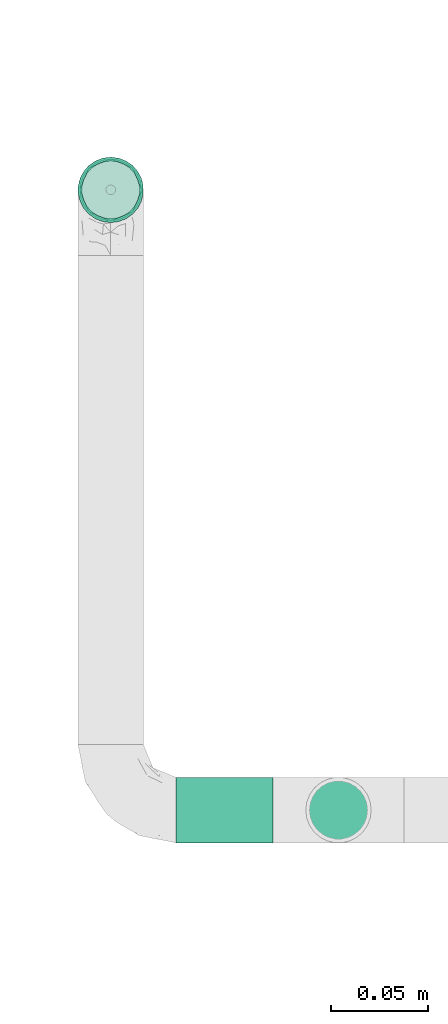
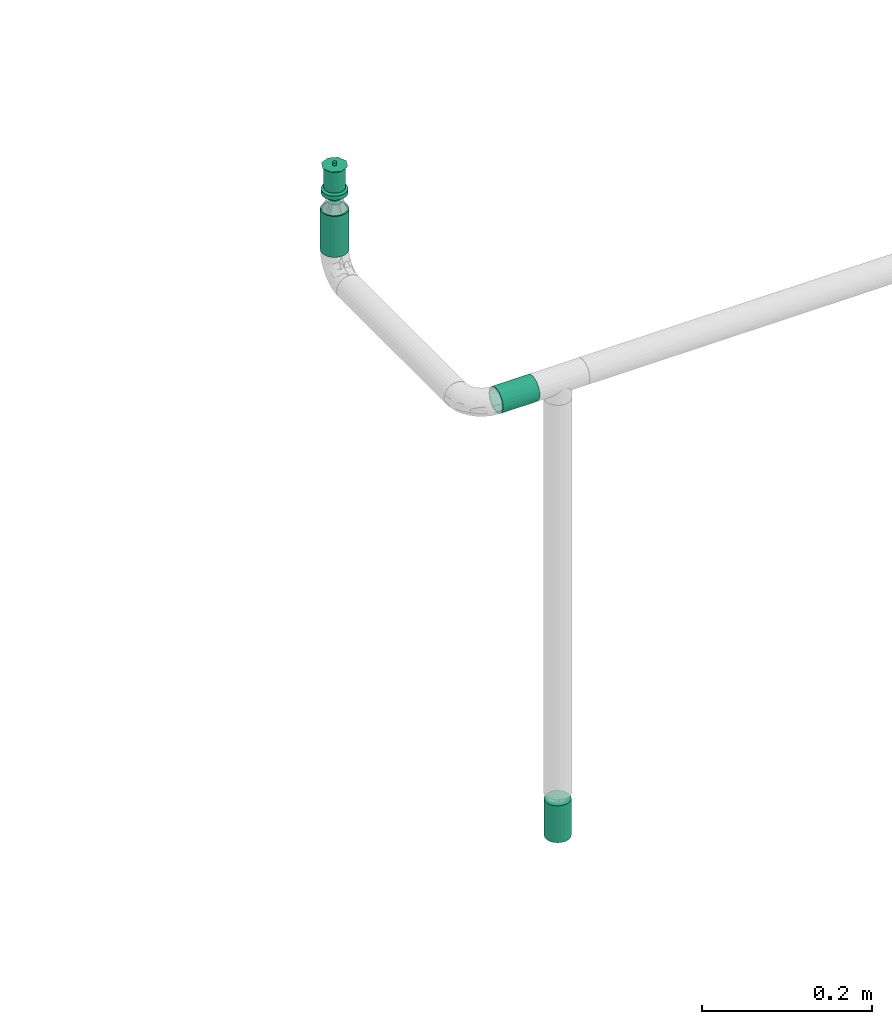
# One storey, part 79 of 94: 2 flow segments, 2 flow terminals.
"""IFC2X3 building model written with IfcOpenShell, lengths in millimetres."""

from ifc_helpers import new_model, entity, si_unit, converted_unit, derived_unit, direction, frame, origin_with_axes, origin_2d_with_axis, place, context, subcontext, project, spatial, hollow_circle, extrude, open_shell, surface_model, source, transform, mapped, type_object, element, save


model = new_model("IFC2X3")

# Units and contexts
model_context = context("Model", 3, precision=0.01, world=frame((0.0, 4.29681676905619e-09, 0.0)), true_north=direction((4.01073788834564e-13, 1.0)))
plan_context = context("Plan", 3, precision=0.01, world=frame((0.0, 4.29681676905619e-09, 0.0)), true_north=direction((4.01073788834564e-13, 1.0)))
body_context = subcontext(model_context, "Body", "Model", "MODEL_VIEW")
ifc_project = project(units=[converted_unit("PLANEANGLEUNIT", "DEGREE", entity("IfcPositiveLengthMeasure", 0.0174532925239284), si_unit("PLANEANGLEUNIT", "RADIAN"), dimensions=[0, 0, 0, 0, 0, 0, 0]), si_unit("AREAUNIT", "SQUARE_METRE"), si_unit("LENGTHUNIT", "METRE", prefix="MILLI"), si_unit("MASSUNIT", "GRAM", prefix="KILO"), si_unit("POWERUNIT", "WATT"), si_unit("PRESSUREUNIT", "PASCAL", prefix="KILO"), si_unit("FORCEUNIT", "NEWTON", prefix="KILO"), si_unit("ELECTRICVOLTAGEUNIT", "VOLT"), si_unit("ELECTRICCURRENTUNIT", "AMPERE"), si_unit("THERMODYNAMICTEMPERATUREUNIT", "DEGREE_CELSIUS"), si_unit("TIMEUNIT", "SECOND"), si_unit("VOLUMEUNIT", "CUBIC_METRE"), derived_unit("LINEARVELOCITYUNIT", [(si_unit("LENGTHUNIT", "METRE"), 1), (si_unit("TIMEUNIT", "SECOND"), -1)]), derived_unit("VOLUMETRICFLOWRATEUNIT", [(si_unit("VOLUMEUNIT", "CUBIC_METRE"), 1), (si_unit("TIMEUNIT", "SECOND"), -1)]), derived_unit("THERMALTRANSMITTANCEUNIT", [(si_unit("POWERUNIT", "WATT"), 1), (si_unit("THERMODYNAMICTEMPERATUREUNIT", "KELVIN"), -1), (si_unit("AREAUNIT", "SQUARE_METRE"), -1)]), derived_unit("SOUNDPRESSUREUNIT", [(si_unit("PRESSUREUNIT", "PASCAL"), 1)])], contexts=[model_context, plan_context])

# Site, building, storey
site_placement = place(None, frame((0.0, -4.29681676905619e-09, 0.0), z_axis=(0.0, 0.0, 1.0), x_axis=(1.0, 0.0, 0.0)))
site = spatial("IfcSite", under=ifc_project, at=site_placement, CompositionType="ELEMENT")
building_placement = place(site_placement, frame((0.0, 4.29681676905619e-09, 0.0), z_axis=(0.0, 0.0, 1.0), x_axis=(1.0, 0.0, 0.0)))
building = spatial("IfcBuilding", under=site, at=building_placement, Name="mc-building", CompositionType="ELEMENT")
storey_placement = place(building_placement, frame((0.0, 0.0, 210900.0), z_axis=(0.0, 0.0, 1.0), x_axis=(1.0, 0.0, 0.0)))
storey = spatial("IfcBuildingStorey", under=building, at=storey_placement, Name="Nivå F", CompositionType="ELEMENT", Elevation=210900.0)

# Flow segments
pipe_segment_type = type_object("IfcPipeSegmentType", Name="Stålrør normaltykke", PredefinedType="RIGIDSEGMENT")
shared_shape_1 = source(origin_with_axes(), body_context, "Body", "SweptSolid", [
    extrude(hollow_circle(Radius=16.9, WallThickness=2.0, at=origin_2d_with_axis()), frame((0.0, 0.0, 0.0), z_axis=(1.0, 0.0, 0.0), x_axis=(0.0, 1.0, 0.0)), (0.0, 0.0, 1.0), 50.0),
])
flow_segment_1_placement = place(storey_placement, frame((718865.9625, 444869.70099, 3650.0), z_axis=(0.0, 0.0, 1.0), x_axis=(-1.0, 0.0, 0.0)))
element("IfcFlowSegment", 1, at=flow_segment_1_placement, inside=storey, type_object=pipe_segment_type, Name="Stålrør normaltykke", context=body_context, shape_type="MappedRepresentation", body=[
    mapped(shared_shape_1, transform((0.0, 0.0, 0.0), scale=1.0)),
])
shared_shape_2 = source(origin_with_axes(), body_context, "Body", "SweptSolid", [
    extrude(hollow_circle(Radius=16.9, WallThickness=2.0, at=origin_2d_with_axis()), frame((0.0, 0.0, 0.0), z_axis=(1.0, 0.0, 0.0), x_axis=(0.0, 1.0, 0.0)), (0.0, 0.0, 1.0), 58.8),
])
flow_segment_2_placement = place(storey_placement, frame((718782.13546, 445190.0375, 3683.79999999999), z_axis=(1.0, 0.0, 0.0), x_axis=(0.0, 0.0, 1.0)))
element("IfcFlowSegment", 2, at=flow_segment_2_placement, inside=storey, type_object=pipe_segment_type, Name="Stålrør normaltykke", context=body_context, shape_type="MappedRepresentation", body=[
    mapped(shared_shape_2, transform((0.0, 0.0, 0.0), scale=1.0, scale2=1.0, scale3=1.0, uniform=False)),
])

# Flow terminals
fire_suppression_terminal_type_1 = type_object("IfcFireSuppressionTerminalType", Name="68DGR-STD-STÅENDE", PredefinedType="NOTDEFINED")
shared_shape_3 = source(origin_with_axes(), body_context, "Body", "SurfaceModel", [
    surface_model("IfcShellBasedSurfaceModel", [(3.36465, -12.55704, 51.0), (6.5, -11.25833, 51.0), (9.19239, -9.19239, 51.0), (12.55704, -3.36465, 51.0), (-11.25833, -6.5, 51.0), (11.25833, -6.5, 51.0), (-13.0, 0.0, 51.0), (0.0, -13.0, 51.0), (-6.5, -11.25833, 51.0), (-3.36465, -12.55704, 51.0), (-9.19239, -9.19239, 51.0), (-12.55704, -3.36465, 51.0), (13.0, 0.0, 51.0), (12.55704, 3.36465, 51.0), (11.25833, 6.5, 51.0), (9.19239, 9.19239, 51.0), (6.5, 11.25833, 51.0), (3.36465, 12.55704, 51.0), (0.0, 13.0, 51.0), (-3.36465, 12.55704, 51.0), (-12.55704, 3.36465, 51.0), (-9.19239, 9.19239, 51.0), (-11.25833, 6.5, 51.0), (-6.5, 11.25833, 51.0), (0.0, 13.0, 21.14766), (3.36465, 12.55704, 21.14766), (6.5, 11.25833, 21.14766), (-3.36465, 12.55704, 21.14766), (9.19239, 9.19239, 21.14766), (11.25833, 6.5, 21.14766), (12.55704, 3.36465, 21.14766), (-12.55704, 3.36465, 21.14766), (-11.25833, -6.5, 21.14766), (-9.19239, 9.19239, 21.14766), (-6.5, 11.25833, 21.14766), (-11.25833, 6.5, 21.14766), (-13.0, 0.0, 21.14766), (12.55704, -3.36465, 21.14766), (9.19239, -9.19239, 21.14766), (11.25833, -6.5, 21.14766), (6.5, -11.25833, 21.14766), (3.36465, -12.55704, 21.14766), (-6.5, -11.25833, 21.14766), (-9.19239, -9.19239, 21.14766), (-12.55704, -3.36465, 21.14766), (0.0, -13.0, 21.14766), (-3.36465, -12.55704, 21.14766), (13.0, 0.0, 21.14766), (7.24444, -1.94114, 0.1), (1.94114, -7.24444, 0.1), (3.75, -6.49519, 0.1), (5.3033, -5.3033, 0.1), (-5.3033, -5.3033, 0.1), (6.49519, -3.75, 0.1), (5.3033, 5.3033, 0.1), (0.0, -7.5, 0.1), (-3.75, -6.49519, 0.1), (-1.94114, -7.24444, 0.1), (-7.24444, -1.94114, 0.1), (-6.49519, -3.75, 0.1), (-7.24444, 1.94114, 0.1), (7.5, 0.0, 0.1), (6.49519, 3.75, 0.1), (-6.49519, 3.75, 0.1), (1.94114, 7.24444, 0.1), (0.0, 7.5, 0.1), (3.75, 6.49519, 0.1), (-7.5, 0.0, 0.1), (-5.3033, 5.3033, 0.1), (-1.94114, 7.24444, 0.1), (-3.75, 6.49519, 0.1), (7.24444, 1.94114, 0.1), (1.94114, 7.24444, -0.1), (-6.49519, 3.75, -0.1), (0.0, 7.5, -0.1), (5.3033, 5.3033, -0.1), (3.75, 6.49519, -0.1), (6.49519, 3.75, -0.1), (7.24444, 1.94114, -0.1), (-1.94114, 7.24444, -0.1), (-5.3033, 5.3033, -0.1), (-3.75, 6.49519, -0.1), (-7.24444, 1.94114, -0.1), (-7.24444, -1.94114, -0.1), (-7.5, 0.0, -0.1), (7.5, 0.0, -0.1), (7.24444, -1.94114, -0.1), (-5.3033, -5.3033, -0.1), (1.94114, -7.24444, -0.1), (6.49519, -3.75, -0.1), (5.3033, -5.3033, -0.1), (3.75, -6.49519, -0.1), (-6.49519, -3.75, -0.1), (-3.75, -6.49519, -0.1), (0.0, -7.5, -0.1), (-1.94114, -7.24444, -0.1), (0.0, -2.5, 51.0), (-2.5, 0.0, 51.0), (0.0, 2.5, 51.0), (2.5, 0.0, 51.0), (0.0, -16.0, 53.0), (11.31371, -11.31371, 53.0), (-11.31371, -11.31371, 53.0), (-16.0, 0.0, 53.0), (16.0, 0.0, 53.0), (11.31371, 11.31371, 53.0), (0.0, 16.0, 53.0), (-11.31371, 11.31371, 53.0), (1.25, -2.16506, 57.0), (0.0, -2.5, 57.0), (0.64705, -2.41481, 57.0), (2.41481, -0.64705, 57.0), (1.76777, -1.76777, 57.0), (-2.41481, -0.64705, 57.0), (-2.5, 0.0, 57.0), (2.16506, -1.25, 57.0), (-1.25, -2.16506, 57.0), (-0.64705, -2.41481, 57.0), (-1.76777, -1.76777, 57.0), (-2.16506, -1.25, 57.0), (2.5, 0.0, 57.0), (2.41481, 0.64705, 57.0), (2.16506, 1.25, 57.0), (1.76777, 1.76777, 57.0), (0.64705, 2.41481, 57.0), (1.25, 2.16506, 57.0), (-1.76777, 1.76777, 57.0), (0.0, 2.5, 57.0), (-2.16506, 1.25, 57.0), (-2.41481, 0.64705, 57.0), (-0.64705, 2.41481, 57.0), (-1.25, 2.16506, 57.0), (1.25, 2.16506, 51.0), (1.76777, 1.76777, 51.0), (1.15, 1.99186, 51.0), (0.59528, 2.22163, 51.0), (0.64705, 2.41481, 51.0), (0.0, 2.3, 51.0), (1.62635, 1.62635, 51.0), (2.41481, 0.64705, 51.0), (2.3, 0.0, 51.0), (2.22163, 0.59528, 51.0), (2.16506, 1.25, 51.0), (1.99186, 1.15, 51.0), (-0.59528, 2.22163, 51.0), (-0.64705, 2.41481, 51.0), (-1.15, 1.99186, 51.0), (-1.76777, 1.76777, 51.0), (-1.25, 2.16506, 51.0), (-1.62635, 1.62635, 51.0), (-1.99186, 1.15, 51.0), (-2.16506, 1.25, 51.0), (-2.22163, 0.59528, 51.0), (-2.41481, 0.64705, 51.0), (-2.3, 0.0, 51.0), (2.41481, -0.64705, 51.0), (2.22163, -0.59528, 51.0), (1.99186, -1.15, 51.0), (2.16506, -1.25, 51.0), (1.62635, -1.62635, 51.0), (1.76777, -1.76777, 51.0), (1.25, -2.16506, 51.0), (1.15, -1.99186, 51.0), (0.59528, -2.22163, 51.0), (0.64705, -2.41481, 51.0), (0.0, -2.3, 51.0), (-2.16506, -1.25, 51.0), (-1.99186, -1.15, 51.0), (-1.76777, -1.76777, 51.0), (-1.62635, -1.62635, 51.0), (-2.41481, -0.64705, 51.0), (-2.22163, -0.59528, 51.0), (-0.59528, -2.22163, 51.0), (-0.64705, -2.41481, 51.0), (-1.15, -1.99186, 51.0), (-1.25, -2.16506, 51.0), (1.62635, -1.62635, 56.8), (1.15, -1.99186, 56.8), (0.59528, -2.22163, 56.8), (0.0, -2.3, 56.8), (2.22163, 0.59528, 56.8), (1.99186, -1.15, 56.8), (2.22163, -0.59528, 56.8), (-0.59528, -2.22163, 56.8), (-1.15, -1.99186, 56.8), (-1.62635, -1.62635, 56.8), (-1.99186, -1.15, 56.8), (-2.22163, -0.59528, 56.8), (-1.99186, 1.15, 56.8), (2.3, 0.0, 56.8), (1.62635, 1.62635, 56.8), (1.99186, 1.15, 56.8), (1.15, 1.99186, 56.8), (0.0, 2.3, 56.8), (0.59528, 2.22163, 56.8), (-2.22163, 0.59528, 56.8), (-2.3, 0.0, 56.8), (-1.15, 1.99186, 56.8), (-0.59528, 2.22163, 56.8), (-1.62635, 1.62635, 56.8), (4.1411, -15.45481, 19.0), (8.0, -13.85641, 19.0), (11.31371, -11.31371, 19.0), (-8.0, -13.85641, 19.0), (15.45481, -4.1411, 19.0), (16.0, 0.0, 19.0), (13.85641, -8.0, 19.0), (0.0, -16.0, 19.0), (-4.1411, -15.45481, 19.0), (-13.85641, -8.0, 19.0), (-11.31371, -11.31371, 19.0), (-15.45481, -4.1411, 19.0), (15.45481, 4.1411, 19.0), (13.85641, 8.0, 19.0), (11.31371, 11.31371, 19.0), (-4.1411, 15.45481, 19.0), (8.0, 13.85641, 19.0), (4.1411, 15.45481, 19.0), (0.0, 16.0, 19.0), (-13.85641, 8.0, 19.0), (-15.45481, 4.1411, 19.0), (-16.0, 0.0, 19.0), (-11.31371, 11.31371, 19.0), (-8.0, 13.85641, 19.0), (0.0, 16.0, 13.0), (4.1411, 15.45481, 13.0), (8.0, 13.85641, 13.0), (-4.1411, 15.45481, 13.0), (11.31371, 11.31371, 13.0), (13.85641, 8.0, 13.0), (15.45481, 4.1411, 13.0), (-15.45481, -4.1411, 13.0), (-11.31371, 11.31371, 13.0), (-8.0, 13.85641, 13.0), (-13.85641, 8.0, 13.0), (-15.45481, 4.1411, 13.0), (-16.0, 0.0, 13.0), (4.1411, -15.45481, 13.0), (16.0, 0.0, 13.0), (15.45481, -4.1411, 13.0), (13.85641, -8.0, 13.0), (11.31371, -11.31371, 13.0), (8.0, -13.85641, 13.0), (-8.0, -13.85641, 13.0), (-13.85641, -8.0, 13.0), (-11.31371, -11.31371, 13.0), (0.0, -16.0, 13.0), (-4.1411, -15.45481, 13.0), (7.24444, -1.94114, 13.0), (1.94114, -7.24444, 13.0), (3.75, -6.49519, 13.0), (5.3033, -5.3033, 13.0), (-5.3033, -5.3033, 13.0), (6.49519, -3.75, 13.0), (5.3033, 5.3033, 13.0), (0.0, -7.5, 13.0), (-3.75, -6.49519, 13.0), (-1.94114, -7.24444, 13.0), (-7.24444, -1.94114, 13.0), (-6.49519, -3.75, 13.0), (-7.24444, 1.94114, 13.0), (7.5, 0.0, 13.0), (6.49519, 3.75, 13.0), (-6.49519, 3.75, 13.0), (1.94114, 7.24444, 13.0), (0.0, 7.5, 13.0), (3.75, 6.49519, 13.0), (-7.5, 0.0, 13.0), (-5.3033, 5.3033, 13.0), (-1.94114, 7.24444, 13.0), (-3.75, 6.49519, 13.0), (7.24444, 1.94114, 13.0), (3.75, 6.49519, 0.0), (5.3033, 5.3033, 0.0), (3.65, 6.32199, 0.0), (1.88938, 7.05126, 0.0), (0.0, 7.3, 0.0), (1.94114, 7.24444, 0.0), (0.0, 7.5, 0.0), (5.16188, 5.16188, 0.0), (7.24444, 1.94114, 0.0), (7.3, 0.0, 0.0), (7.05126, 1.88938, 0.0), (7.5, 0.0, 0.0), (6.49519, 3.75, 0.0), (6.32199, 3.65, 0.0), (-1.88938, 7.05126, 0.0), (-1.94114, 7.24444, 0.0), (-3.65, 6.32199, 0.0), (-5.3033, 5.3033, 0.0), (-3.75, 6.49519, 0.0), (-5.16188, 5.16188, 0.0), (-6.32199, 3.65, 0.0), (-6.49519, 3.75, 0.0), (-7.05126, 1.88938, 0.0), (-7.24444, 1.94114, 0.0), (-7.3, 0.0, 0.0), (-7.5, 0.0, 0.0), (7.24444, -1.94114, 0.0), (7.05126, -1.88938, 0.0), (6.32199, -3.65, 0.0), (6.49519, -3.75, 0.0), (5.16188, -5.16188, 0.0), (5.3033, -5.3033, 0.0), (3.75, -6.49519, 0.0), (3.65, -6.32199, 0.0), (1.88938, -7.05126, 0.0), (1.94114, -7.24444, 0.0), (0.0, -7.3, 0.0), (0.0, -7.5, 0.0), (-6.49519, -3.75, 0.0), (-6.32199, -3.65, 0.0), (-5.3033, -5.3033, 0.0), (-5.16188, -5.16188, 0.0), (-7.24444, -1.94114, 0.0), (-7.05126, -1.88938, 0.0), (-1.88938, -7.05126, 0.0), (-1.94114, -7.24444, 0.0), (-3.65, -6.32199, 0.0), (-3.75, -6.49519, 0.0), (1.88938, -7.05126, 12.8), (0.0, -7.3, 12.8), (3.65, -6.32199, 12.8), (5.16188, -5.16188, 12.8), (6.32199, -3.65, 12.8), (7.05126, 1.88938, 12.8), (7.05126, -1.88938, 12.8), (-5.16188, -5.16188, 12.8), (-1.88938, -7.05126, 12.8), (-3.65, -6.32199, 12.8), (-6.32199, -3.65, 12.8), (-7.05126, -1.88938, 12.8), (0.0, 7.3, 12.8), (7.3, 0.0, 12.8), (6.32199, 3.65, 12.8), (5.16188, 5.16188, 12.8), (3.65, 6.32199, 12.8), (1.88938, 7.05126, 12.8), (-6.32199, 3.65, 12.8), (-7.05126, 1.88938, 12.8), (-7.3, 0.0, 12.8), (-3.65, 6.32199, 12.8), (-1.88938, 7.05126, 12.8), (-5.16188, 5.16188, 12.8)], [open_shell([[[0, 1, 2]], [[0, 2, 3]], [[0, 3, 4]], [[3, 2, 5]], [[6, 4, 3]], [[7, 8, 9]], [[7, 0, 8]], [[8, 4, 10]], [[0, 4, 8]], [[4, 6, 11]], [[6, 3, 12]], [[13, 14, 15]], [[6, 13, 15]], [[16, 17, 18]], [[15, 16, 19]], [[18, 19, 16]], [[20, 21, 22]], [[20, 6, 15]], [[21, 19, 23]], [[19, 21, 20]], [[15, 19, 20]], [[13, 6, 12]], [[24, 25, 26]], [[27, 24, 26]], [[28, 29, 30]], [[26, 28, 31]], [[28, 32, 31]], [[27, 33, 34]], [[33, 27, 31]], [[33, 31, 35]], [[27, 26, 31]], [[31, 32, 36]], [[32, 28, 30]], [[32, 30, 37]], [[38, 37, 39]], [[38, 40, 41]], [[38, 41, 37]], [[32, 37, 41]], [[32, 42, 43]], [[44, 36, 32]], [[42, 45, 46]], [[42, 32, 41]], [[45, 42, 41]], [[30, 47, 37]], [[4, 32, 43]], [[8, 42, 46]], [[43, 42, 10]], [[9, 46, 45]], [[36, 11, 6]], [[11, 36, 44]], [[11, 44, 4]], [[44, 32, 4]], [[43, 10, 4]], [[8, 10, 42]], [[46, 9, 8]], [[45, 7, 9]], [[0, 41, 40]], [[38, 1, 40]], [[5, 39, 37]], [[38, 39, 2]], [[3, 37, 47]], [[41, 0, 7]], [[40, 1, 0]], [[38, 2, 1]], [[39, 5, 2]], [[3, 5, 37]], [[47, 12, 3]], [[41, 7, 45]], [[30, 13, 47]], [[29, 14, 30]], [[25, 24, 17]], [[15, 29, 28]], [[30, 14, 13]], [[13, 12, 47]], [[16, 26, 17]], [[16, 15, 28]], [[26, 25, 17]], [[15, 14, 29]], [[28, 26, 16]], [[24, 18, 17]], [[19, 27, 34]], [[33, 23, 34]], [[22, 35, 31]], [[33, 35, 21]], [[20, 31, 36]], [[27, 19, 18]], [[34, 23, 19]], [[33, 21, 23]], [[35, 22, 21]], [[20, 22, 31]], [[36, 6, 20]], [[27, 18, 24]], [[48, 49, 50]], [[48, 50, 51]], [[49, 48, 52]], [[48, 51, 53]], [[54, 52, 48]], [[55, 56, 57]], [[56, 55, 52]], [[52, 58, 59]], [[52, 55, 49]], [[52, 60, 58]], [[54, 48, 61]], [[62, 54, 61]], [[54, 63, 52]], [[64, 65, 54]], [[64, 54, 66]], [[63, 54, 65]], [[63, 60, 52]], [[67, 58, 60]], [[68, 69, 70]], [[69, 68, 63]], [[69, 63, 65]], [[71, 62, 61]], [[72, 73, 74]], [[75, 72, 76]], [[75, 77, 78]], [[72, 75, 73]], [[78, 73, 75]], [[79, 80, 81]], [[80, 79, 73]], [[74, 73, 79]], [[78, 82, 73]], [[82, 83, 84]], [[82, 78, 85]], [[86, 87, 85]], [[88, 86, 89]], [[90, 91, 88]], [[90, 88, 89]], [[87, 86, 88]], [[83, 87, 92]], [[83, 85, 87]], [[93, 94, 95]], [[94, 93, 87]], [[88, 94, 87]], [[85, 83, 82]], [[83, 58, 84]], [[92, 59, 83]], [[56, 87, 93]], [[92, 87, 52]], [[57, 93, 95]], [[83, 59, 58]], [[58, 67, 84]], [[57, 56, 93]], [[52, 87, 56]], [[52, 59, 92]], [[55, 57, 95]], [[95, 94, 55]], [[88, 49, 94]], [[91, 50, 88]], [[53, 90, 89]], [[91, 90, 51]], [[48, 89, 86]], [[91, 51, 50]], [[50, 49, 88]], [[61, 48, 86]], [[53, 89, 48]], [[53, 51, 90]], [[85, 61, 86]], [[94, 49, 55]], [[78, 71, 85]], [[77, 62, 78]], [[66, 75, 76]], [[77, 75, 54]], [[64, 76, 72]], [[78, 62, 71]], [[71, 61, 85]], [[64, 66, 76]], [[54, 75, 66]], [[54, 62, 77]], [[65, 64, 72]], [[72, 74, 65]], [[79, 69, 74]], [[81, 70, 79]], [[63, 80, 73]], [[81, 80, 68]], [[60, 73, 82]], [[81, 68, 70]], [[70, 69, 79]], [[67, 60, 82]], [[63, 73, 60]], [[63, 68, 80]], [[84, 67, 82]], [[74, 69, 65]], [[96, 97, 98]], [[98, 99, 96]], [[100, 101, 102]], [[103, 102, 101]], [[101, 104, 103]], [[104, 105, 106]], [[107, 103, 106]], [[106, 103, 104]], [[99, 98, 105]], [[105, 104, 99]], [[98, 106, 105]], [[98, 107, 106]], [[107, 98, 97]], [[103, 107, 97]], [[97, 96, 102]], [[102, 103, 97]], [[96, 100, 102]], [[96, 101, 100]], [[101, 96, 99]], [[104, 101, 99]], [[108, 109, 110]], [[111, 108, 112]], [[113, 108, 114]], [[111, 112, 115]], [[108, 111, 114]], [[109, 116, 117]], [[116, 109, 118]], [[118, 113, 119]], [[118, 109, 108]], [[108, 113, 118]], [[111, 120, 114]], [[121, 122, 123]], [[114, 121, 123]], [[114, 123, 124]], [[124, 123, 125]], [[126, 124, 127]], [[124, 128, 129]], [[129, 114, 124]], [[126, 130, 131]], [[128, 124, 126]], [[130, 126, 127]], [[121, 114, 120]], [[132, 133, 134]], [[132, 134, 135]], [[136, 135, 137]], [[135, 136, 132]], [[136, 137, 98]], [[134, 133, 138]], [[139, 140, 141]], [[140, 139, 99]], [[139, 141, 142]], [[138, 142, 143]], [[142, 138, 133]], [[143, 142, 141]], [[98, 144, 145]], [[98, 137, 144]], [[145, 144, 146]], [[147, 148, 149]], [[146, 148, 145]], [[149, 148, 146]], [[150, 151, 147]], [[151, 150, 152]], [[150, 147, 149]], [[153, 152, 154]], [[152, 153, 151]], [[153, 154, 97]], [[99, 155, 156]], [[156, 155, 157]], [[157, 158, 159]], [[158, 157, 155]], [[159, 158, 160]], [[160, 161, 162]], [[162, 161, 163]], [[163, 164, 165]], [[164, 163, 161]], [[165, 164, 96]], [[162, 159, 160]], [[166, 167, 168]], [[168, 167, 169]], [[167, 166, 170]], [[97, 171, 170]], [[170, 171, 167]], [[97, 154, 171]], [[172, 96, 173]], [[172, 173, 174]], [[169, 175, 168]], [[175, 169, 174]], [[175, 174, 173]], [[165, 96, 172]], [[156, 140, 99]], [[170, 113, 97]], [[166, 119, 170]], [[116, 168, 175]], [[166, 168, 118]], [[117, 175, 173]], [[170, 119, 113]], [[113, 114, 97]], [[117, 116, 175]], [[118, 168, 116]], [[118, 119, 166]], [[109, 117, 173]], [[173, 96, 109]], [[164, 110, 96]], [[161, 108, 164]], [[115, 160, 158]], [[161, 160, 112]], [[111, 158, 155]], [[161, 112, 108]], [[108, 110, 164]], [[120, 111, 155]], [[115, 158, 111]], [[115, 112, 160]], [[99, 120, 155]], [[96, 110, 109]], [[139, 121, 99]], [[142, 122, 139]], [[125, 133, 132]], [[142, 133, 123]], [[124, 132, 136]], [[139, 122, 121]], [[121, 120, 99]], [[124, 125, 132]], [[123, 133, 125]], [[123, 122, 142]], [[127, 124, 136]], [[136, 98, 127]], [[145, 130, 98]], [[148, 131, 145]], [[128, 147, 151]], [[148, 147, 126]], [[129, 151, 153]], [[148, 126, 131]], [[131, 130, 145]], [[114, 129, 153]], [[128, 151, 129]], [[128, 126, 147]], [[97, 114, 153]], [[98, 130, 127]], [[176, 177, 178]], [[176, 178, 179]], [[180, 176, 179]], [[181, 176, 182]], [[180, 182, 176]], [[183, 184, 179]], [[185, 179, 184]], [[186, 187, 185]], [[185, 187, 188]], [[179, 185, 188]], [[189, 182, 180]], [[190, 191, 180]], [[192, 190, 180]], [[193, 194, 192]], [[180, 193, 192]], [[188, 193, 180]], [[195, 188, 196]], [[196, 188, 187]], [[197, 198, 199]], [[188, 199, 198]], [[188, 198, 193]], [[180, 179, 188]], [[154, 187, 171]], [[171, 186, 167]], [[174, 169, 184]], [[185, 169, 167]], [[172, 174, 183]], [[187, 186, 171]], [[154, 196, 187]], [[174, 184, 183]], [[184, 169, 185]], [[167, 186, 185]], [[172, 183, 179]], [[179, 165, 172]], [[165, 178, 163]], [[163, 177, 162]], [[157, 159, 181]], [[176, 159, 162]], [[156, 157, 182]], [[177, 176, 162]], [[163, 178, 177]], [[156, 182, 189]], [[182, 157, 181]], [[159, 176, 181]], [[156, 189, 140]], [[179, 178, 165]], [[140, 180, 141]], [[141, 191, 143]], [[134, 138, 192]], [[190, 138, 143]], [[135, 134, 194]], [[180, 191, 141]], [[140, 189, 180]], [[134, 192, 194]], [[192, 138, 190]], [[143, 191, 190]], [[135, 194, 193]], [[193, 137, 135]], [[137, 198, 144]], [[144, 197, 146]], [[150, 149, 188]], [[199, 149, 146]], [[152, 150, 195]], [[197, 199, 146]], [[144, 198, 197]], [[152, 195, 196]], [[195, 150, 188]], [[149, 199, 188]], [[152, 196, 154]], [[193, 198, 137]], [[200, 201, 202]], [[203, 200, 202]], [[204, 205, 202]], [[204, 202, 206]], [[203, 202, 205]], [[207, 203, 208]], [[207, 200, 203]], [[203, 209, 210]], [[209, 203, 211]], [[205, 211, 203]], [[205, 212, 211]], [[212, 213, 214]], [[215, 212, 214]], [[216, 217, 218]], [[214, 216, 215]], [[218, 215, 216]], [[211, 219, 220]], [[221, 211, 220]], [[222, 215, 223]], [[215, 222, 219]], [[219, 211, 215]], [[211, 212, 215]], [[224, 225, 226]], [[227, 224, 226]], [[228, 229, 230]], [[227, 226, 228]], [[227, 228, 231]], [[227, 232, 233]], [[232, 227, 234]], [[234, 231, 235]], [[231, 234, 227]], [[235, 231, 236]], [[228, 230, 231]], [[237, 238, 239]], [[237, 239, 240]], [[241, 242, 237]], [[241, 237, 240]], [[238, 237, 243]], [[244, 243, 245]], [[243, 244, 231]], [[243, 246, 247]], [[243, 231, 238]], [[237, 246, 243]], [[238, 231, 230]], [[231, 211, 236]], [[244, 209, 231]], [[203, 245, 243]], [[244, 245, 210]], [[208, 243, 247]], [[231, 209, 211]], [[211, 221, 236]], [[208, 203, 243]], [[210, 245, 203]], [[210, 209, 244]], [[207, 208, 247]], [[247, 246, 207]], [[237, 200, 246]], [[242, 201, 237]], [[206, 241, 240]], [[242, 241, 202]], [[204, 240, 239]], [[242, 202, 201]], [[201, 200, 237]], [[205, 204, 239]], [[206, 240, 204]], [[206, 202, 241]], [[238, 205, 239]], [[246, 200, 207]], [[230, 212, 238]], [[229, 213, 230]], [[216, 228, 226]], [[229, 228, 214]], [[217, 226, 225]], [[230, 213, 212]], [[212, 205, 238]], [[217, 216, 226]], [[214, 228, 216]], [[214, 213, 229]], [[218, 217, 225]], [[225, 224, 218]], [[227, 215, 224]], [[233, 223, 227]], [[219, 232, 234]], [[233, 232, 222]], [[220, 234, 235]], [[233, 222, 223]], [[223, 215, 227]], [[221, 220, 235]], [[219, 234, 220]], [[219, 222, 232]], [[236, 221, 235]], [[224, 215, 218]], [[248, 249, 250]], [[248, 250, 251]], [[249, 248, 252]], [[248, 251, 253]], [[254, 252, 248]], [[255, 256, 257]], [[256, 255, 252]], [[252, 258, 259]], [[252, 255, 249]], [[252, 260, 258]], [[254, 248, 261]], [[262, 254, 261]], [[254, 263, 252]], [[264, 265, 254]], [[264, 254, 266]], [[263, 254, 265]], [[263, 260, 252]], [[267, 258, 260]], [[268, 269, 270]], [[269, 268, 263]], [[269, 263, 265]], [[271, 262, 261]], [[272, 273, 274]], [[272, 274, 275]], [[276, 277, 275]], [[277, 276, 278]], [[275, 277, 272]], [[274, 273, 279]], [[280, 281, 282]], [[281, 280, 283]], [[280, 282, 284]], [[279, 284, 285]], [[284, 279, 273]], [[285, 284, 282]], [[278, 286, 287]], [[287, 286, 288]], [[289, 290, 291]], [[288, 290, 287]], [[288, 291, 290]], [[278, 276, 286]], [[292, 293, 289]], [[293, 292, 294]], [[292, 289, 291]], [[295, 294, 296]], [[294, 295, 293]], [[295, 296, 297]], [[283, 298, 299]], [[299, 298, 300]], [[300, 301, 302]], [[301, 300, 298]], [[302, 301, 303]], [[303, 304, 305]], [[305, 304, 306]], [[306, 307, 308]], [[307, 306, 304]], [[308, 307, 309]], [[305, 302, 303]], [[310, 311, 312]], [[312, 311, 313]], [[311, 310, 314]], [[297, 315, 314]], [[314, 315, 311]], [[297, 296, 315]], [[316, 309, 317]], [[316, 317, 318]], [[313, 319, 312]], [[313, 318, 319]], [[319, 318, 317]], [[308, 309, 316]], [[299, 281, 283]], [[314, 258, 297]], [[310, 259, 314]], [[256, 312, 319]], [[310, 312, 252]], [[257, 319, 317]], [[314, 259, 258]], [[258, 267, 297]], [[257, 256, 319]], [[252, 312, 256]], [[252, 259, 310]], [[255, 257, 317]], [[317, 309, 255]], [[307, 249, 309]], [[304, 250, 307]], [[253, 303, 301]], [[304, 303, 251]], [[248, 301, 298]], [[304, 251, 250]], [[250, 249, 307]], [[261, 248, 298]], [[253, 301, 248]], [[253, 251, 303]], [[283, 261, 298]], [[309, 249, 255]], [[280, 271, 283]], [[284, 262, 280]], [[266, 273, 272]], [[284, 273, 254]], [[264, 272, 277]], [[280, 262, 271]], [[271, 261, 283]], [[264, 266, 272]], [[254, 273, 266]], [[254, 262, 284]], [[265, 264, 277]], [[277, 278, 265]], [[287, 269, 278]], [[290, 270, 287]], [[263, 289, 293]], [[290, 289, 268]], [[260, 293, 295]], [[290, 268, 270]], [[270, 269, 287]], [[267, 260, 295]], [[263, 293, 260]], [[263, 268, 289]], [[297, 267, 295]], [[278, 269, 265]], [[320, 321, 322]], [[323, 322, 324]], [[325, 326, 322]], [[324, 322, 326]], [[322, 327, 325]], [[328, 329, 321]], [[327, 321, 329]], [[330, 331, 327]], [[322, 321, 327]], [[331, 332, 327]], [[326, 325, 333]], [[334, 325, 332]], [[335, 334, 336]], [[332, 337, 336]], [[334, 332, 336]], [[331, 338, 332]], [[339, 338, 340]], [[340, 338, 331]], [[341, 342, 343]], [[332, 338, 343]], [[332, 343, 342]], [[332, 325, 327]], [[296, 331, 315]], [[315, 330, 311]], [[318, 313, 329]], [[327, 313, 311]], [[316, 318, 328]], [[331, 330, 315]], [[296, 340, 331]], [[318, 329, 328]], [[329, 313, 327]], [[311, 330, 327]], [[316, 328, 321]], [[321, 308, 316]], [[308, 320, 306]], [[306, 322, 305]], [[300, 302, 324]], [[323, 302, 305]], [[299, 300, 326]], [[322, 323, 305]], [[306, 320, 322]], [[299, 326, 333]], [[326, 300, 324]], [[302, 323, 324]], [[299, 333, 281]], [[321, 320, 308]], [[281, 325, 282]], [[282, 334, 285]], [[274, 279, 336]], [[335, 279, 285]], [[275, 274, 337]], [[325, 334, 282]], [[281, 333, 325]], [[274, 336, 337]], [[336, 279, 335]], [[285, 334, 335]], [[275, 337, 332]], [[332, 276, 275]], [[276, 342, 286]], [[286, 341, 288]], [[292, 291, 338]], [[343, 291, 288]], [[294, 292, 339]], [[341, 343, 288]], [[286, 342, 341]], [[294, 339, 340]], [[339, 292, 338]], [[291, 343, 338]], [[294, 340, 296]], [[332, 342, 276]]])]),
])
flow_terminal_1_placement = place(storey_placement, frame((718782.13546, 445190.0375, 3752.0), z_axis=(0.0, 0.0, 1.0), x_axis=(1.0, 0.0, 0.0)))
element("IfcFlowTerminal", 3, at=flow_terminal_1_placement, inside=storey, type_object=fire_suppression_terminal_type_1, Name="68DGR-STD-STÅENDE", context=body_context, shape_type="MappedRepresentation", body=[
    mapped(shared_shape_3, transform((0.0, 0.0, 0.0), scale=1.0)),
])
fire_suppression_terminal_type_2 = type_object("IfcFireSuppressionTerminalType", Name="SP-15-K80-68DGR-STD-HIMLING", PredefinedType="NOTDEFINED")
shared_shape_4 = source(origin_with_axes(), body_context, "Body", "SurfaceModel", [
    surface_model("IfcShellBasedSurfaceModel", [(4.1411, -15.45481, 53.0), (8.0, -13.85641, 53.0), (11.31371, -11.31371, 53.0), (-8.0, -13.85641, 53.0), (15.45481, -4.1411, 53.0), (16.0, 0.0, 53.0), (13.85641, -8.0, 53.0), (0.0, -16.0, 53.0), (-4.1411, -15.45481, 53.0), (-13.85641, -8.0, 53.0), (-11.31371, -11.31371, 53.0), (-15.45481, -4.1411, 53.0), (15.45481, 4.1411, 53.0), (13.85641, 8.0, 53.0), (11.31371, 11.31371, 53.0), (-4.1411, 15.45481, 53.0), (8.0, 13.85641, 53.0), (4.1411, 15.45481, 53.0), (0.0, 16.0, 53.0), (-13.85641, 8.0, 53.0), (-15.45481, 4.1411, 53.0), (-16.0, 0.0, 53.0), (-11.31371, 11.31371, 53.0), (-8.0, 13.85641, 53.0), (0.0, 16.0, 0.0), (4.1411, 15.45481, 0.0), (8.0, 13.85641, 0.0), (-4.1411, 15.45481, 0.0), (11.31371, 11.31371, 0.0), (13.85641, 8.0, 0.0), (15.45481, 4.1411, 0.0), (-15.45481, -4.1411, 0.0), (-11.31371, 11.31371, 0.0), (-8.0, 13.85641, 0.0), (-13.85641, 8.0, 0.0), (-15.45481, 4.1411, 0.0), (-16.0, 0.0, 0.0), (4.1411, -15.45481, 0.0), (16.0, 0.0, 0.0), (15.45481, -4.1411, 0.0), (13.85641, -8.0, 0.0), (11.31371, -11.31371, 0.0), (8.0, -13.85641, 0.0), (-8.0, -13.85641, 0.0), (-13.85641, -8.0, 0.0), (-11.31371, -11.31371, 0.0), (0.0, -16.0, 0.0), (-4.1411, -15.45481, 0.0)], [open_shell([[[0, 1, 2]], [[3, 0, 2]], [[4, 5, 2]], [[4, 2, 6]], [[3, 2, 5]], [[7, 3, 8]], [[7, 0, 3]], [[3, 9, 10]], [[9, 3, 11]], [[5, 11, 3]], [[5, 12, 11]], [[12, 13, 14]], [[15, 12, 14]], [[16, 17, 18]], [[14, 16, 15]], [[18, 15, 16]], [[11, 19, 20]], [[21, 11, 20]], [[22, 15, 23]], [[15, 22, 19]], [[19, 11, 15]], [[11, 12, 15]], [[24, 25, 26]], [[27, 24, 26]], [[28, 29, 30]], [[27, 26, 28]], [[27, 28, 31]], [[27, 32, 33]], [[32, 27, 34]], [[34, 31, 35]], [[31, 34, 27]], [[35, 31, 36]], [[28, 30, 31]], [[37, 38, 39]], [[37, 39, 40]], [[41, 42, 37]], [[41, 37, 40]], [[38, 37, 43]], [[44, 43, 45]], [[43, 44, 31]], [[43, 46, 47]], [[43, 31, 38]], [[37, 46, 43]], [[38, 31, 30]], [[11, 31, 44]], [[45, 9, 44]], [[3, 43, 47]], [[45, 43, 10]], [[8, 47, 46]], [[31, 21, 36]], [[31, 11, 21]], [[44, 9, 11]], [[45, 10, 9]], [[3, 10, 43]], [[47, 8, 3]], [[46, 7, 8]], [[0, 37, 42]], [[41, 1, 42]], [[6, 40, 39]], [[41, 40, 2]], [[4, 39, 38]], [[37, 0, 7]], [[42, 1, 0]], [[41, 2, 1]], [[40, 6, 2]], [[4, 6, 39]], [[38, 5, 4]], [[37, 7, 46]], [[12, 38, 30]], [[13, 30, 29]], [[16, 26, 25]], [[17, 25, 24]], [[30, 13, 12]], [[12, 5, 38]], [[28, 14, 13]], [[28, 26, 14]], [[14, 26, 16]], [[25, 17, 16]], [[28, 13, 29]], [[24, 18, 17]], [[15, 27, 33]], [[32, 23, 33]], [[19, 34, 35]], [[32, 34, 22]], [[20, 35, 36]], [[27, 15, 18]], [[33, 23, 15]], [[32, 22, 23]], [[34, 19, 22]], [[20, 19, 35]], [[36, 21, 20]], [[27, 18, 24]]])]),
])
flow_terminal_2_placement = place(storey_placement, frame((718899.7625, 444869.70099, 3050.0), z_axis=(0.0, 0.0, -1.0), x_axis=(-1.0, 0.0, 0.0)))
element("IfcFlowTerminal", 4, at=flow_terminal_2_placement, inside=storey, type_object=fire_suppression_terminal_type_2, Name="SP-15-K80-68DGR-STD-HIMLING", context=body_context, shape_type="MappedRepresentation", body=[
    mapped(shared_shape_4, transform((0.0, 0.0, 0.0), scale=1.0)),
])

save(model, "model.ifc")
